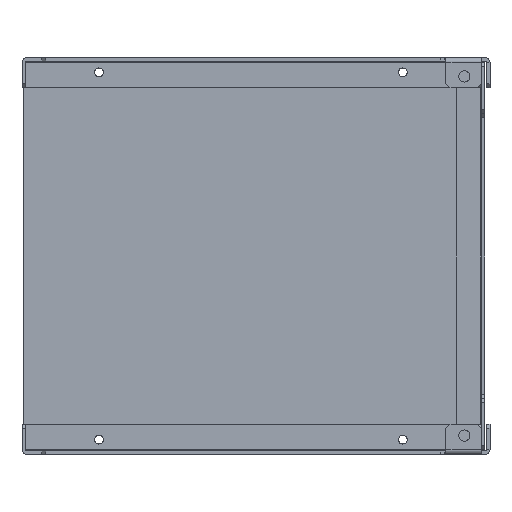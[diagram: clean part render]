
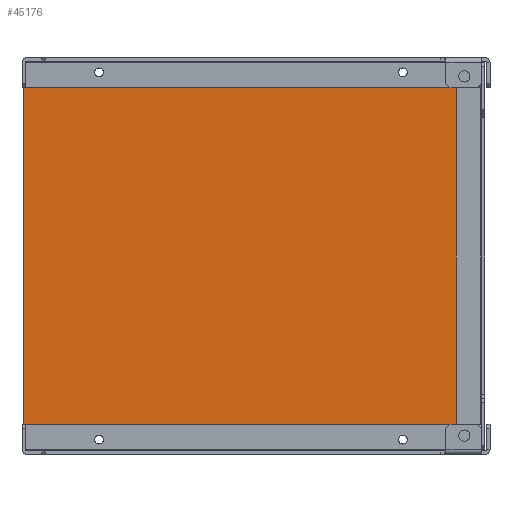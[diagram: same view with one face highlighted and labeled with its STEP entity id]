
A CAD part, front view. The second image highlights one B-rep face of the part: STEP entity #45176.
In plain terms, the highlighted planar face has unit normal (0, -1, 0) as drawn and (0, 0, 1) by its records, which use the part's own axes.
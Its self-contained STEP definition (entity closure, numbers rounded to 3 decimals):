
#43741=CARTESIAN_POINT(' ',(71.25,-89.5,0.));
#43742=VERTEX_POINT(' ',#43741);
#43756=CARTESIAN_POINT(' ',(74.,-89.5,0.));
#43761=DIRECTION(' ',(0.,-0.,1.));
#43766=DIRECTION(' ',(-1.,0.,0.));
#43771=AXIS2_PLACEMENT_3D(' ',#43756,#43761,#43766);
#43776=CIRCLE('',#43771,2.75);
#43781=CARTESIAN_POINT(' ',(76.75,-89.5,0.));
#43782=VERTEX_POINT(' ',#43781);
#43786=EDGE_CURVE(' ',#43742,#43782,#43776,.T.);
#44521=CARTESIAN_POINT(' ',(74.,-89.5,0.));
#44526=DIRECTION(' ',(0.,0.,1.));
#44531=DIRECTION(' ',(1.,0.,0.));
#44536=AXIS2_PLACEMENT_3D(' ',#44521,#44526,#44531);
#44541=CIRCLE('',#44536,2.75);
#44546=EDGE_CURVE(' ',#43782,#43742,#44541,.T.);
#44571=DIRECTION(' ',(-0.,0.,1.));
#44576=CARTESIAN_POINT(' ',(-111.,-96.5,0.));
#44581=DIRECTION(' ',(1.,0.,0.));
#44586=AXIS2_PLACEMENT_3D(' ',#44576,#44571,#44581);
#44591=PLANE('NONE',#44586);
#44596=CARTESIAN_POINT(' ',(-111.,91.5,0.));
#44601=DIRECTION(' ',(0.,-1.,0.));
#44606=VECTOR(' ',#44601,1.);
#44611=LINE('',#44596,#44606);
#44616=CARTESIAN_POINT(' ',(-111.,91.5,0.));
#44617=VERTEX_POINT(' ',#44616);
#44621=CARTESIAN_POINT(' ',(-111.,-91.5,0.));
#44622=VERTEX_POINT(' ',#44621);
#44626=EDGE_CURVE(' ',#44617,#44622,#44611,.T.);
#44631=ORIENTED_EDGE(' ',*,*,#44626,.T.);
#44636=CARTESIAN_POINT(' ',(-111.,-91.5,0.));
#44641=DIRECTION(' ',(0.707,-0.707,0.));
#44646=VECTOR(' ',#44641,1.);
#44651=LINE('',#44636,#44646);
#44656=CARTESIAN_POINT(' ',(-106.,-96.5,0.));
#44657=VERTEX_POINT(' ',#44656);
#44661=EDGE_CURVE(' ',#44622,#44657,#44651,.T.);
#44666=ORIENTED_EDGE(' ',*,*,#44661,.T.);
#44671=CARTESIAN_POINT(' ',(-106.,-96.5,0.));
#44676=DIRECTION(' ',(1.,0.,0.));
#44681=VECTOR(' ',#44676,1.);
#44686=LINE('',#44671,#44681);
#44691=CARTESIAN_POINT(' ',(106.,-96.5,0.));
#44692=VERTEX_POINT(' ',#44691);
#44696=EDGE_CURVE(' ',#44657,#44692,#44686,.T.);
#44701=ORIENTED_EDGE(' ',*,*,#44696,.T.);
#44706=CARTESIAN_POINT(' ',(106.,-96.5,0.));
#44711=DIRECTION(' ',(0.707,0.707,0.));
#44716=VECTOR(' ',#44711,1.);
#44721=LINE('',#44706,#44716);
#44726=CARTESIAN_POINT(' ',(111.,-91.5,0.));
#44727=VERTEX_POINT(' ',#44726);
#44731=EDGE_CURVE(' ',#44692,#44727,#44721,.T.);
#44736=ORIENTED_EDGE(' ',*,*,#44731,.T.);
#44741=CARTESIAN_POINT(' ',(111.,-91.5,0.));
#44746=DIRECTION(' ',(0.,1.,0.));
#44751=VECTOR(' ',#44746,1.);
#44756=LINE('',#44741,#44751);
#44761=CARTESIAN_POINT(' ',(111.,91.5,0.));
#44762=VERTEX_POINT(' ',#44761);
#44766=EDGE_CURVE(' ',#44727,#44762,#44756,.T.);
#44771=ORIENTED_EDGE(' ',*,*,#44766,.T.);
#44776=CARTESIAN_POINT(' ',(111.,91.5,0.));
#44781=DIRECTION(' ',(-0.707,0.707,0.));
#44786=VECTOR(' ',#44781,1.);
#44791=LINE('',#44776,#44786);
#44796=CARTESIAN_POINT(' ',(106.,96.5,0.));
#44797=VERTEX_POINT(' ',#44796);
#44801=EDGE_CURVE(' ',#44762,#44797,#44791,.T.);
#44806=ORIENTED_EDGE(' ',*,*,#44801,.T.);
#44811=CARTESIAN_POINT(' ',(106.,96.5,0.));
#44816=DIRECTION(' ',(-1.,0.,0.));
#44821=VECTOR(' ',#44816,1.);
#44826=LINE('',#44811,#44821);
#44831=CARTESIAN_POINT(' ',(-106.,96.5,0.));
#44832=VERTEX_POINT(' ',#44831);
#44836=EDGE_CURVE(' ',#44797,#44832,#44826,.T.);
#44841=ORIENTED_EDGE(' ',*,*,#44836,.T.);
#44846=CARTESIAN_POINT(' ',(-106.,96.5,0.));
#44851=DIRECTION(' ',(-0.707,-0.707,0.));
#44856=VECTOR(' ',#44851,1.);
#44861=LINE('',#44846,#44856);
#44866=EDGE_CURVE(' ',#44832,#44617,#44861,.T.);
#44871=ORIENTED_EDGE(' ',*,*,#44866,.T.);
#44876=EDGE_LOOP(' ',(#44631,#44666,#44701,#44736,#44771,#44806,#44841,#44871));
#44881=FACE_OUTER_BOUND(' ',#44876,.T.);
#44886=ORIENTED_EDGE(' ',*,*,#44546,.F.);
#44891=ORIENTED_EDGE(' ',*,*,#43786,.F.);
#44896=EDGE_LOOP(' ',(#44886,#44891));
#44901=FACE_BOUND(' ',#44896,.T.);
#44906=CARTESIAN_POINT(' ',(74.,89.5,0.));
#44911=DIRECTION(' ',(0.,0.,1.));
#44916=DIRECTION(' ',(1.,0.,0.));
#44921=AXIS2_PLACEMENT_3D(' ',#44906,#44911,#44916);
#44926=CIRCLE('',#44921,2.75);
#44931=CARTESIAN_POINT(' ',(76.75,89.5,0.));
#44932=VERTEX_POINT(' ',#44931);
#44936=CARTESIAN_POINT(' ',(71.25,89.5,0.));
#44937=VERTEX_POINT(' ',#44936);
#44941=EDGE_CURVE(' ',#44932,#44937,#44926,.T.);
#44946=ORIENTED_EDGE(' ',*,*,#44941,.F.);
#44951=CARTESIAN_POINT(' ',(74.,89.5,0.));
#44956=DIRECTION(' ',(0.,-0.,1.));
#44961=DIRECTION(' ',(-1.,0.,0.));
#44966=AXIS2_PLACEMENT_3D(' ',#44951,#44956,#44961);
#44971=CIRCLE('',#44966,2.75);
#44976=EDGE_CURVE(' ',#44937,#44932,#44971,.T.);
#44981=ORIENTED_EDGE(' ',*,*,#44976,.F.);
#44986=EDGE_LOOP(' ',(#44946,#44981));
#44991=FACE_BOUND(' ',#44986,.T.);
#44996=CARTESIAN_POINT(' ',(-74.,89.5,0.));
#45001=DIRECTION(' ',(0.,0.,1.));
#45006=DIRECTION(' ',(1.,0.,0.));
#45011=AXIS2_PLACEMENT_3D(' ',#44996,#45001,#45006);
#45016=CIRCLE('',#45011,2.75);
#45021=CARTESIAN_POINT(' ',(-71.25,89.5,0.));
#45022=VERTEX_POINT(' ',#45021);
#45026=CARTESIAN_POINT(' ',(-76.75,89.5,0.));
#45027=VERTEX_POINT(' ',#45026);
#45031=EDGE_CURVE(' ',#45022,#45027,#45016,.T.);
#45036=ORIENTED_EDGE(' ',*,*,#45031,.F.);
#45041=CARTESIAN_POINT(' ',(-74.,89.5,0.));
#45046=DIRECTION(' ',(0.,-0.,1.));
#45051=DIRECTION(' ',(-1.,0.,0.));
#45056=AXIS2_PLACEMENT_3D(' ',#45041,#45046,#45051);
#45061=CIRCLE('',#45056,2.75);
#45066=EDGE_CURVE(' ',#45027,#45022,#45061,.T.);
#45071=ORIENTED_EDGE(' ',*,*,#45066,.F.);
#45076=EDGE_LOOP(' ',(#45036,#45071));
#45081=FACE_BOUND(' ',#45076,.T.);
#45086=CARTESIAN_POINT(' ',(-74.,-89.5,0.));
#45091=DIRECTION(' ',(0.,0.,1.));
#45096=DIRECTION(' ',(1.,0.,0.));
#45101=AXIS2_PLACEMENT_3D(' ',#45086,#45091,#45096);
#45106=CIRCLE('',#45101,2.75);
#45111=CARTESIAN_POINT(' ',(-71.25,-89.5,0.));
#45112=VERTEX_POINT(' ',#45111);
#45116=CARTESIAN_POINT(' ',(-76.75,-89.5,0.));
#45117=VERTEX_POINT(' ',#45116);
#45121=EDGE_CURVE(' ',#45112,#45117,#45106,.T.);
#45126=ORIENTED_EDGE(' ',*,*,#45121,.F.);
#45131=CARTESIAN_POINT(' ',(-74.,-89.5,0.));
#45136=DIRECTION(' ',(0.,-0.,1.));
#45141=DIRECTION(' ',(-1.,0.,0.));
#45146=AXIS2_PLACEMENT_3D(' ',#45131,#45136,#45141);
#45151=CIRCLE('',#45146,2.75);
#45156=EDGE_CURVE(' ',#45117,#45112,#45151,.T.);
#45161=ORIENTED_EDGE(' ',*,*,#45156,.F.);
#45166=EDGE_LOOP(' ',(#45126,#45161));
#45171=FACE_BOUND(' ',#45166,.T.);
#45176=ADVANCED_FACE('NONE',(#44881,#44901,#44991,#45081,#45171),#44591,.T.);
